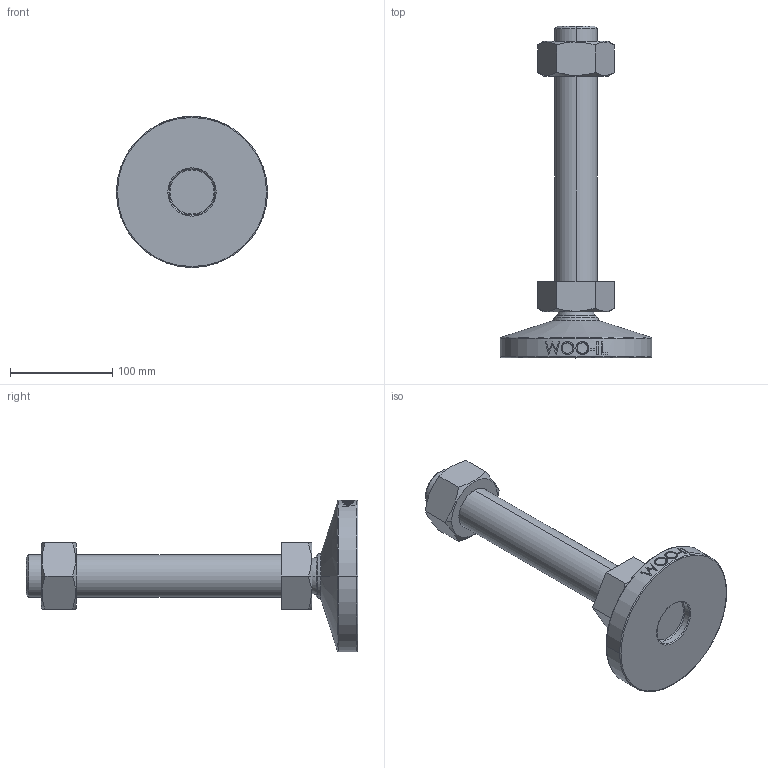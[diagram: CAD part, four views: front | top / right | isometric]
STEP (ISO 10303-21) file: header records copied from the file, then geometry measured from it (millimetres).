
FILE_DESCRIPTION (( 'STEP AP214' ), '1' );
FILE_NAME ('MFN148-M42-250.step', '2021-01-19T06:27:45', ( '' ), ( '' ), 'SwSTEP 2.0', 'SolidWorks 2019', '' );
FILE_SCHEMA (( 'AUTOMOTIVE_DESIGN' ));
Length unit declared in the file: millimetre
Products named in the file (2): MFN148-M42-250
Bounding box: 148 x 325 x 148 mm (x, y, z)
Volume: 1004639.3 mm3; surface area: 106836.3 mm2
Topology: 2 solids, 2 shells, 107 faces, 247 edges, 156 vertices
Faces by surface type: plane 47, cone 18, cylinder 16, bspline 16, torus 8, sphere 2
Entity records: 4761 total; most frequent: CARTESIAN_POINT 2394, ORIENTED_EDGE 494, DIRECTION 447, EDGE_CURVE 247, AXIS2_PLACEMENT_3D 173, VERTEX_POINT 156, EDGE_LOOP 121, ADVANCED_FACE 107
